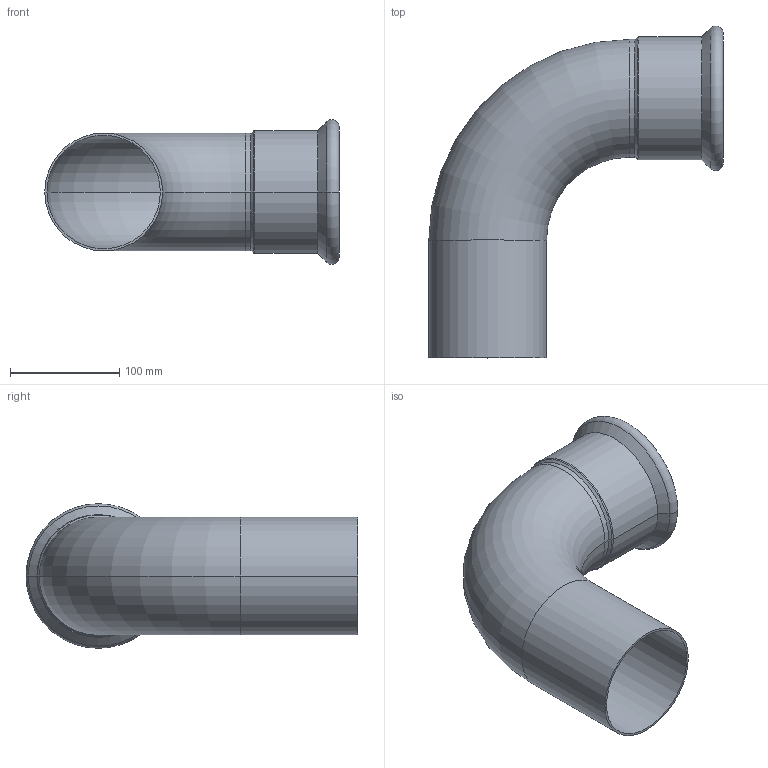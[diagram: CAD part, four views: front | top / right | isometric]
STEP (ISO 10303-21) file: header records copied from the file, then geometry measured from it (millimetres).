
FILE_DESCRIPTION(('OneSpaceDesigner STEP Export'),'2;1');
FILE_NAME('R2711 108x108.stp','2010-06-09T15:15:48',(''),(''),'OneSpace Designer STEP processor for AP214 (Solid Model)','OneSpace Modeling 15.00A 14-Mar-2007 (C) CoCreate Software GmbH','');
FILE_SCHEMA(('AUTOMOTIVE_DESIGN { 1 0 10303 214 1 1 1 1 }'));
Length unit declared in the file: millimetre
Products named in the file (2): R2711_108x108
Assembly tree (1 placements, depth 2):
  R2711_108x108
    R2711_108x108
Bounding box: 270 x 304.29 x 132.58 mm (x, y, z)
Volume: 329399.1 mm3; surface area: 282455.6 mm2
Topology: 1 solids, 1 shells, 66 faces, 163 edges, 104 vertices
Faces by surface type: plane 31, cylinder 23, torus 8, cone 4
Entity records: 1736 total; most frequent: ORIENTED_EDGE 326, CARTESIAN_POINT 277, DIRECTION 253, EDGE_CURVE 163, VERTEX_POINT 104, VECTOR 93, LINE 93, AXIS2_PLACEMENT_3D 80
